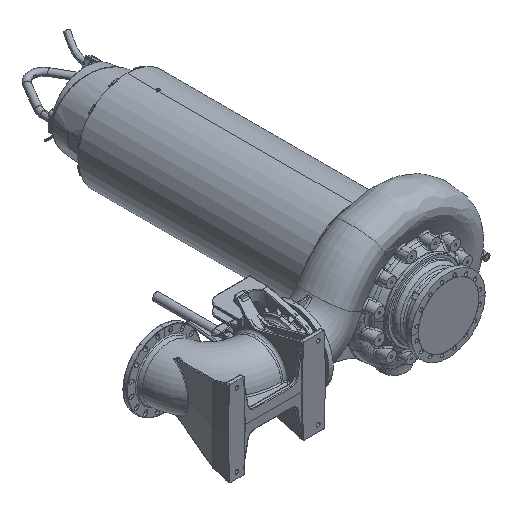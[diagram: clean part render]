
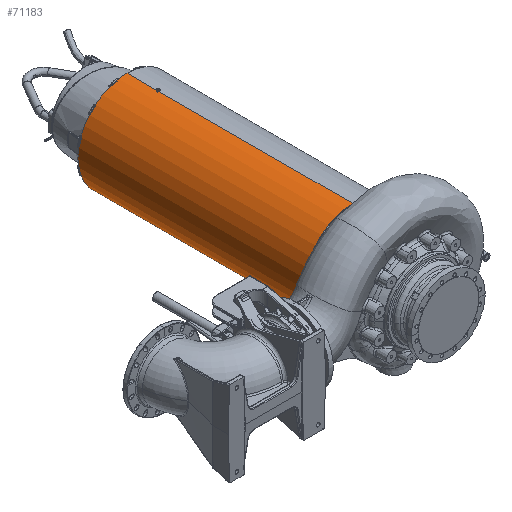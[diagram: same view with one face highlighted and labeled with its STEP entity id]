
A CAD part, isometric view. The second image highlights one B-rep face of the part: STEP entity #71183.
In plain terms, the highlighted cylindrical face has radius 391.5 mm (diameter 783 mm), a partial arc.
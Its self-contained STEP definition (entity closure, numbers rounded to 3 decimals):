
#3202 = EDGE_CURVE ( 'NONE', #88239, #316595, #10072, .T. ) ;
#4819 = DIRECTION ( 'NONE',  ( 0., 1., 0. ) ) ;
#5766 = LINE ( 'NONE', #196705, #128445 ) ;
#6634 = CIRCLE ( 'NONE', #86452, 391.5 ) ;
#7098 = CARTESIAN_POINT ( 'NONE',  ( 0., 1922.47, 391.5 ) ) ;
#7119 = CARTESIAN_POINT ( 'NONE',  ( 0., 1922.47, 391.5 ) ) ;
#9747 = EDGE_CURVE ( 'NONE', #280649, #145349, #150367, .T. ) ;
#10072 = CIRCLE ( 'NONE', #222223, 391.5 ) ;
#27202 = VERTEX_POINT ( 'NONE', #7098 ) ;
#29797 = CARTESIAN_POINT ( 'NONE',  ( -9.5, 1916.985, -391.385 ) ) ;
#34243 = ORIENTED_EDGE ( 'NONE', *, *, #284222, .F. ) ;
#35923 = EDGE_CURVE ( 'NONE', #82125, #57351, #6634, .T. ) ;
#39529 =( BOUNDED_CURVE ( )  B_SPLINE_CURVE ( 3, ( #226568, #176263, #153836, #7119 ),
 .UNSPECIFIED., .F., .F. ) 
 B_SPLINE_CURVE_WITH_KNOTS ( ( 4, 4 ),
 ( 4.688, 4.712 ),
 .UNSPECIFIED. ) 
 CURVE ( )  GEOMETRIC_REPRESENTATION_ITEM ( )  RATIONAL_B_SPLINE_CURVE ( ( 1., 1., 1., 1. ) ) 
 REPRESENTATION_ITEM ( '' )  );
#42047 = CARTESIAN_POINT ( 'NONE',  ( 0., 2161.5, 0. ) ) ;
#42319 = VECTOR ( 'NONE', #74568, 1000. ) ;
#44284 = ORIENTED_EDGE ( 'NONE', *, *, #112496, .F. ) ;
#44993 = CARTESIAN_POINT ( 'NONE',  ( -9.5, 1916.985, -391.385 ) ) ;
#47549 = VECTOR ( 'NONE', #317363, 1000. ) ;
#48304 = ORIENTED_EDGE ( 'NONE', *, *, #3202, .T. ) ;
#53606 = CARTESIAN_POINT ( 'NONE',  ( -3.167, 1902.359, -391.5 ) ) ;
#54640 = CARTESIAN_POINT ( 'NONE',  ( -9.5, 1906.015, -391.385 ) ) ;
#55959 = CARTESIAN_POINT ( 'NONE',  ( 0., 357.5, 0. ) ) ;
#57351 = VERTEX_POINT ( 'NONE', #274765 ) ;
#65125 = EDGE_CURVE ( 'NONE', #289208, #311697, #5766, .T. ) ;
#66763 = DIRECTION ( 'NONE',  ( 0., 0., -1. ) ) ;
#68731 = ORIENTED_EDGE ( 'NONE', *, *, #109717, .T. ) ;
#71183 = ADVANCED_FACE ( 'NONE', ( #308658 ), #220708, .T. ) ;
#72265 = VERTEX_POINT ( 'NONE', #133490 ) ;
#74568 = DIRECTION ( 'NONE',  ( 0., 1., 0. ) ) ;
#79204 = CARTESIAN_POINT ( 'NONE',  ( 0., 1922.47, -391.5 ) ) ;
#80678 = DIRECTION ( 'NONE',  ( 0., 0., -1. ) ) ;
#82125 = VERTEX_POINT ( 'NONE', #292770 ) ;
#86452 = AXIS2_PLACEMENT_3D ( 'NONE', #42047, #213308, #66763 ) ;
#88239 = VERTEX_POINT ( 'NONE', #204877 ) ;
#104601 = CARTESIAN_POINT ( 'NONE',  ( -9.5, 1906.015, 391.385 ) ) ;
#108341 = CARTESIAN_POINT ( 'NONE',  ( -9.5, 1916.985, 391.385 ) ) ;
#109092 = LINE ( 'NONE', #298042, #174022 ) ;
#109717 = EDGE_CURVE ( 'NONE', #311697, #27202, #39529, .T. ) ;
#112496 = EDGE_CURVE ( 'NONE', #213527, #280649, #264806, .T. ) ;
#114041 = DIRECTION ( 'NONE',  ( 0., 0., -1. ) ) ;
#116247 = EDGE_CURVE ( 'NONE', #174040, #289208, #200438, .T. ) ;
#118846 = CARTESIAN_POINT ( 'NONE',  ( -9.5, 1906.015, -391.385 ) ) ;
#118919 = ORIENTED_EDGE ( 'NONE', *, *, #147825, .F. ) ;
#125728 = ORIENTED_EDGE ( 'NONE', *, *, #9747, .F. ) ;
#125955 = CARTESIAN_POINT ( 'NONE',  ( -3.167, 1902.359, 391.5 ) ) ;
#126384 = CARTESIAN_POINT ( 'NONE',  ( -6.334, 1904.187, -391.462 ) ) ;
#126535 = CARTESIAN_POINT ( 'NONE',  ( -9.5, 2301.849, -391.385 ) ) ;
#128445 = VECTOR ( 'NONE', #171980, 1000. ) ;
#133490 = CARTESIAN_POINT ( 'NONE',  ( 0., 1922.47, -391.5 ) ) ;
#139315 = ORIENTED_EDGE ( 'NONE', *, *, #35923, .F. ) ;
#145349 = VERTEX_POINT ( 'NONE', #44993 ) ;
#146261 = CARTESIAN_POINT ( 'NONE',  ( 0., 2301.849, -391.5 ) ) ;
#147825 = EDGE_CURVE ( 'NONE', #88239, #213527, #172507, .T. ) ;
#148301 = CARTESIAN_POINT ( 'NONE',  ( 0., 2301.849, -391.5 ) ) ;
#150367 = LINE ( 'NONE', #126535, #265134 ) ;
#153836 = CARTESIAN_POINT ( 'NONE',  ( -3.167, 1920.641, 391.5 ) ) ;
#155930 = VECTOR ( 'NONE', #251986, 1000. ) ;
#162097 = DIRECTION ( 'NONE',  ( 0., 1., 0. ) ) ;
#171980 = DIRECTION ( 'NONE',  ( 0., 1., 0. ) ) ;
#172084 =( BOUNDED_CURVE ( )  B_SPLINE_CURVE ( 3, ( #29797, #298352, #225668, #79204 ),
 .UNSPECIFIED., .F., .F. ) 
 B_SPLINE_CURVE_WITH_KNOTS ( ( 4, 4 ),
 ( 4.688, 4.712 ),
 .UNSPECIFIED. ) 
 CURVE ( )  GEOMETRIC_REPRESENTATION_ITEM ( )  RATIONAL_B_SPLINE_CURVE ( ( 1., 1., 1., 1. ) ) 
 REPRESENTATION_ITEM ( '' )  );
#172507 = LINE ( 'NONE', #148301, #42319 ) ;
#174022 = VECTOR ( 'NONE', #4819, 1000. ) ;
#174040 = VERTEX_POINT ( 'NONE', #200841 ) ;
#176263 = CARTESIAN_POINT ( 'NONE',  ( -6.334, 1918.813, 391.462 ) ) ;
#177665 = ORIENTED_EDGE ( 'NONE', *, *, #65125, .T. ) ;
#179432 = EDGE_CURVE ( 'NONE', #27202, #57351, #109092, .T. ) ;
#194159 = EDGE_CURVE ( 'NONE', #316595, #174040, #293673, .T. ) ;
#195049 = CARTESIAN_POINT ( 'NONE',  ( 0., 1900.53, -391.5 ) ) ;
#196705 = CARTESIAN_POINT ( 'NONE',  ( -9.5, 2301.849, 391.385 ) ) ;
#197742 = CARTESIAN_POINT ( 'NONE',  ( 0., 1900.53, 391.5 ) ) ;
#200396 = EDGE_CURVE ( 'NONE', #145349, #72265, #172084, .T. ) ;
#200438 =( BOUNDED_CURVE ( )  B_SPLINE_CURVE ( 3, ( #197742, #125955, #251050, #104601 ),
 .UNSPECIFIED., .F., .F. ) 
 B_SPLINE_CURVE_WITH_KNOTS ( ( 4, 4 ),
 ( 4.712, 4.737 ),
 .UNSPECIFIED. ) 
 CURVE ( )  GEOMETRIC_REPRESENTATION_ITEM ( )  RATIONAL_B_SPLINE_CURVE ( ( 1., 1., 1., 1. ) ) 
 REPRESENTATION_ITEM ( '' )  );
#200841 = CARTESIAN_POINT ( 'NONE',  ( 0., 1900.53, 391.5 ) ) ;
#201262 = AXIS2_PLACEMENT_3D ( 'NONE', #284085, #162097, #114041 ) ;
#201282 = CARTESIAN_POINT ( 'NONE',  ( 0., 1900.53, -391.5 ) ) ;
#204877 = CARTESIAN_POINT ( 'NONE',  ( 0., 357.5, -391.5 ) ) ;
#210501 = ORIENTED_EDGE ( 'NONE', *, *, #200396, .F. ) ;
#211543 = CARTESIAN_POINT ( 'NONE',  ( -9.5, 1906.015, 391.385 ) ) ;
#213308 = DIRECTION ( 'NONE',  ( 0., 1., 0. ) ) ;
#213527 = VERTEX_POINT ( 'NONE', #195049 ) ;
#220708 = CYLINDRICAL_SURFACE ( 'NONE', #201262, 391.5 ) ;
#222223 = AXIS2_PLACEMENT_3D ( 'NONE', #55959, #227146, #80678 ) ;
#225668 = CARTESIAN_POINT ( 'NONE',  ( -3.167, 1920.641, -391.5 ) ) ;
#226568 = CARTESIAN_POINT ( 'NONE',  ( -9.5, 1916.985, 391.385 ) ) ;
#227146 = DIRECTION ( 'NONE',  ( 0., 1., 0. ) ) ;
#227365 = CARTESIAN_POINT ( 'NONE',  ( 0., 2301.849, 391.5 ) ) ;
#235086 = LINE ( 'NONE', #146261, #47549 ) ;
#251050 = CARTESIAN_POINT ( 'NONE',  ( -6.334, 1904.187, 391.462 ) ) ;
#251986 = DIRECTION ( 'NONE',  ( 0., 1., 0. ) ) ;
#256666 = CARTESIAN_POINT ( 'NONE',  ( 0., 357.5, 391.5 ) ) ;
#264806 =( BOUNDED_CURVE ( )  B_SPLINE_CURVE ( 3, ( #201282, #53606, #126384, #54640 ),
 .UNSPECIFIED., .F., .F. ) 
 B_SPLINE_CURVE_WITH_KNOTS ( ( 4, 4 ),
 ( 4.712, 4.737 ),
 .UNSPECIFIED. ) 
 CURVE ( )  GEOMETRIC_REPRESENTATION_ITEM ( )  RATIONAL_B_SPLINE_CURVE ( ( 1., 1., 1., 1. ) ) 
 REPRESENTATION_ITEM ( '' )  );
#265134 = VECTOR ( 'NONE', #297616, 1000. ) ;
#266869 = ORIENTED_EDGE ( 'NONE', *, *, #179432, .T. ) ;
#274765 = CARTESIAN_POINT ( 'NONE',  ( 0., 2161.5, 391.5 ) ) ;
#280649 = VERTEX_POINT ( 'NONE', #118846 ) ;
#284085 = CARTESIAN_POINT ( 'NONE',  ( 0., 2301.849, 0. ) ) ;
#284222 = EDGE_CURVE ( 'NONE', #72265, #82125, #235086, .T. ) ;
#289208 = VERTEX_POINT ( 'NONE', #211543 ) ;
#290198 = ORIENTED_EDGE ( 'NONE', *, *, #194159, .T. ) ;
#292770 = CARTESIAN_POINT ( 'NONE',  ( 0., 2161.5, -391.5 ) ) ;
#293673 = LINE ( 'NONE', #227365, #155930 ) ;
#297616 = DIRECTION ( 'NONE',  ( 0., 1., 0. ) ) ;
#298042 = CARTESIAN_POINT ( 'NONE',  ( 0., 2301.849, 391.5 ) ) ;
#298352 = CARTESIAN_POINT ( 'NONE',  ( -6.334, 1918.813, -391.462 ) ) ;
#308658 = FACE_OUTER_BOUND ( 'NONE', #311287, .T. ) ;
#310841 = ORIENTED_EDGE ( 'NONE', *, *, #116247, .T. ) ;
#311287 = EDGE_LOOP ( 'NONE', ( #48304, #290198, #310841, #177665, #68731, #266869, #139315, #34243, #210501, #125728, #44284, #118919 ) ) ;
#311697 = VERTEX_POINT ( 'NONE', #108341 ) ;
#316595 = VERTEX_POINT ( 'NONE', #256666 ) ;
#317363 = DIRECTION ( 'NONE',  ( 0., 1., 0. ) ) ;
